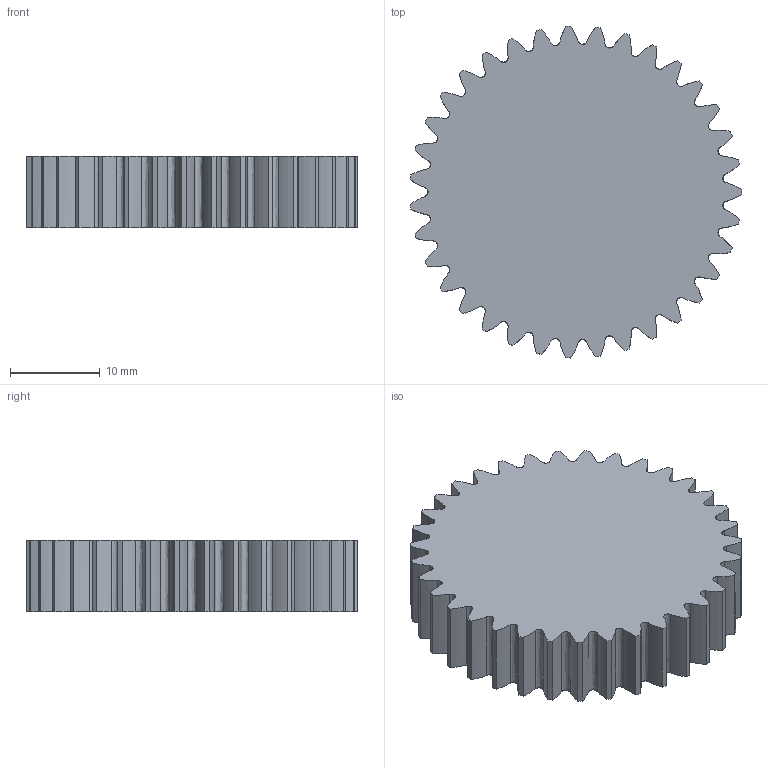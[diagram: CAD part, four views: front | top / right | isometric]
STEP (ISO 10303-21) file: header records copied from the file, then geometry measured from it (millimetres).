
FILE_DESCRIPTION(/* description */ (''),/* implementation_level */ '2;1');
FILE_NAME(/* name */ 'C:/Users/Brandon/Desktop/gears 25deg mod1 fillet.5/30t.step',/* time_stamp */ '2018-01-03T17:39:07-06:00',/* author */ (''),/* organization */ (''),/* preprocessor_version */ 'ST-DEVELOPER v16.13',/* originating_system */ 'Autodesk Translation Framework v6.5.0.72',/* authorisation */ '');
FILE_SCHEMA (('AUTOMOTIVE_DESIGN { 1 0 10303 214 3 1 1 }'));
Length unit declared in the file: millimetre
Products named in the file (4): (Unsaved); Spur Gear (12 teeth); Spur Gear (40 teeth); Spur Gear (35 teeth)
Assembly tree (3 placements, depth 2):
  (Unsaved)
    Spur Gear (12 teeth)
    Spur Gear (40 teeth)
    Spur Gear (35 teeth)
Bounding box: 36.95 x 36.98 x 8 mm (x, y, z)
Volume: 7692.9 mm3; surface area: 3486.4 mm2
Topology: 1 solids, 1 shells, 142 faces, 420 edges, 280 vertices
Faces by surface type: bspline 105, cylinder 35, plane 2
Entity records: 23169 total; most frequent: CARTESIAN_POINT 20274, ORIENTED_EDGE 840, EDGE_CURVE 420, DIRECTION 298, VERTEX_POINT 280, FACE_OUTER_BOUND 142, EDGE_LOOP 142, ADVANCED_FACE 142
